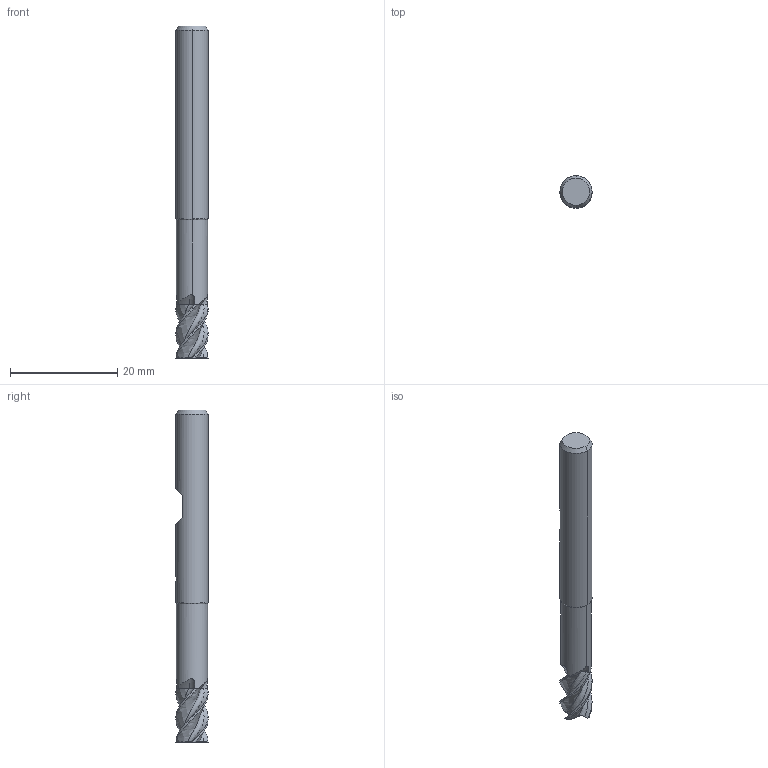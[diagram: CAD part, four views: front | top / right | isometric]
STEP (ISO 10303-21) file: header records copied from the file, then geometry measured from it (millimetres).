
FILE_DESCRIPTION(('no description'),'unknown implementation level');
FILE_NAME('solidI5ktI_bB2z1_aDGwnSKQJZf6UOo_1.STP',' ',('CIMSOURCE GmbH'),('CADClick - KiM GmbH - www.kimweb.de'),'unknown preprocess','ACIS','unknown authorization');
FILE_SCHEMA(('automotive_design'));
Length unit declared in the file: millimetre
Products named in the file (2): NOCUT; CUT
Bounding box: 6 x 6 x 62 mm (x, y, z)
Volume: 1560.6 mm3; surface area: 1441.9 mm2
Topology: 2 solids, 2 shells, 135 faces, 380 edges, 248 vertices
Faces by surface type: bspline 60, plane 27, cone 20, cylinder 16, revolution 12
Entity records: 24016 total; most frequent: CARTESIAN_POINT 16855, STYLED_ITEM 765, PRESENTATION_STYLE_ASSIGNMENT 765, COLOUR_RGB 765, ORIENTED_EDGE 760, EDGE_CURVE 380, CURVE_STYLE 380, DRAUGHTING_PRE_DEFINED_CURVE_FONT 380
